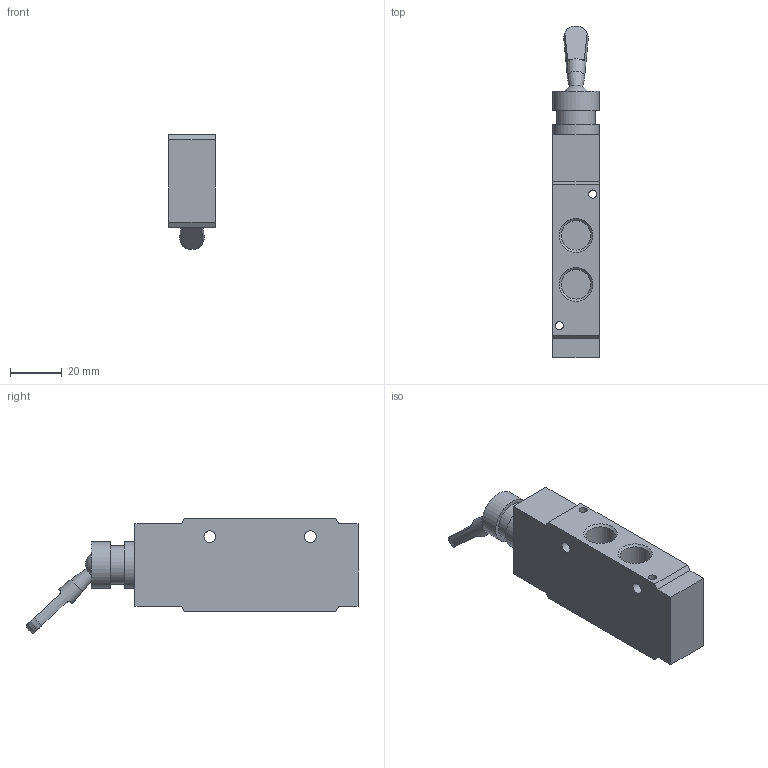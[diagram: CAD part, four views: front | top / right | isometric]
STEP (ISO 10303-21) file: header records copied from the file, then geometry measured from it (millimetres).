
FILE_DESCRIPTION(/* description */ ('STEP AP214'),/* implementation_level */ '2;1');
FILE_NAME(/* name */ '84-HPV-14-520.stp',/* time_stamp */ '2026-01-15T08:29:19+01:00',/* author */ ('Tschernatsch'),/* organization */ ('CADENAS'),/* preprocessor_version */ 'ST-DEVELOPER v20',/* originating_system */ 'Autodesk Inventor 2024',/* authorisation */ ' ');
FILE_SCHEMA (('AUTOMOTIVE_DESIGN { 1 0 10303 214 3 1 1 }'));
Length unit declared in the file: millimetre
Products named in the file (1): MPV522
Bounding box: 18 x 128.77 x 44.56 mm (x, y, z)
Volume: 52798.1 mm3; surface area: 15011.6 mm2
Topology: 1 solids, 1 shells, 53 faces, 123 edges, 80 vertices
Faces by surface type: plane 28, cylinder 15, cone 8, bspline 1, sphere 1
Full cylindrical faces by diameter (mm): 3.2 x2, 4.5 x2, 11.445 x5, 14 x1, 15 x1, 18 x2
Entity records: 1766 total; most frequent: CARTESIAN_POINT 414, DIRECTION 263, ORIENTED_EDGE 244, EDGE_CURVE 122, AXIS2_PLACEMENT_3D 100, VERTEX_POINT 80, EDGE_LOOP 70, LINE 63
